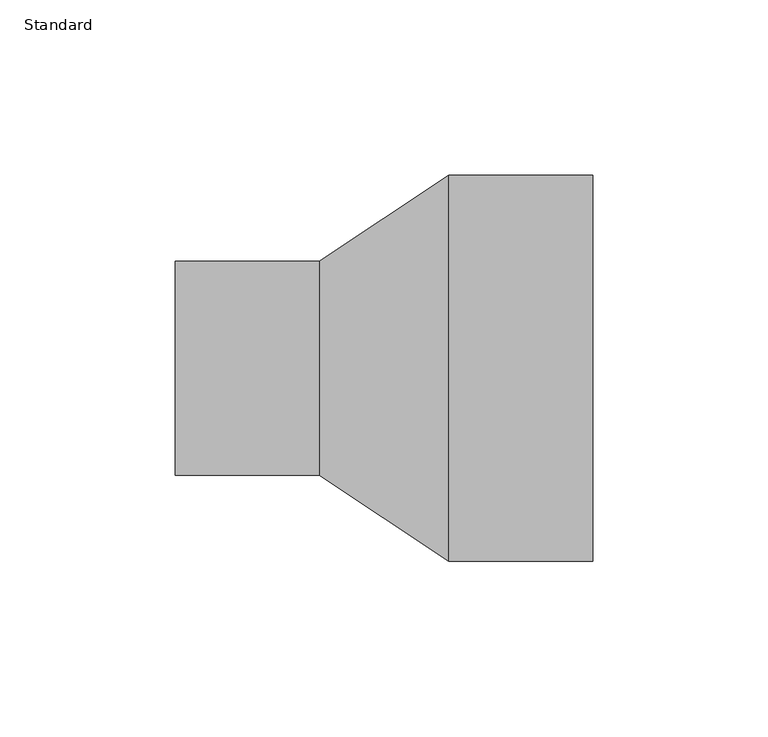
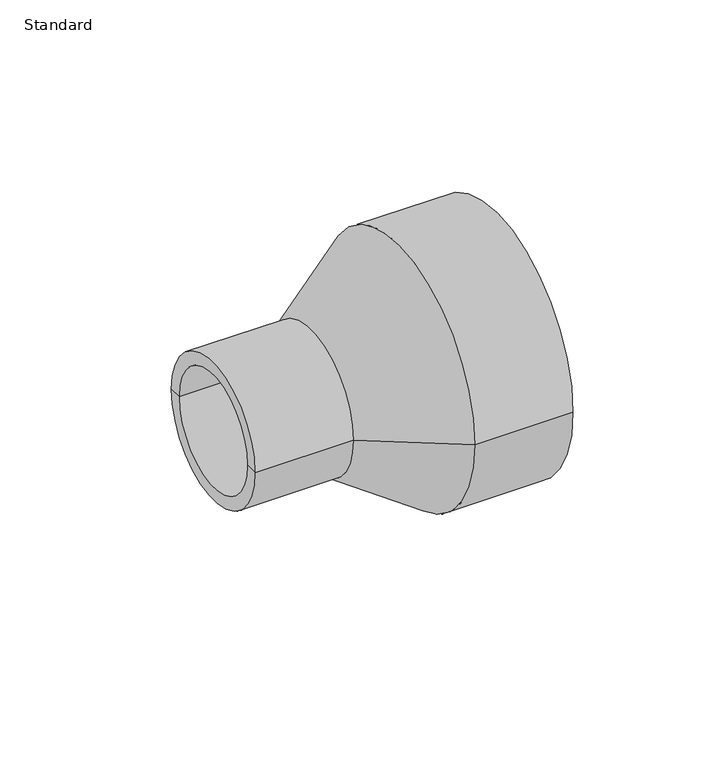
"""IFC4 building model written with IfcOpenShell, lengths in millimetres: pipe fitting geometry, Durapipe_PipeFitting_PVC_Reducers : Standard."""

from ifc_helpers import new_model, si_unit, frame, origin, place, context, project, spatial, polyline, circle_curve, source, transform, mapped, element, save
from ifc_brep_helpers import plane_surface, cylinder_surface, revolved_surface, advanced_brep


def standard_8775f316(model_context):
    return source(origin(), model_context, "Body", "AdvancedBrep", [
        advanced_brep(
        [(-59.5, -30.5, 0.0), (-59.5, 30.5, 0.0), (-18.5, 30.5, 0.0), (-18.5, -30.5, 0.0), (-59.5, -25.0, 0.0), (-59.5, 25.0, 0.0), (59.5, -55.0, 0.0), (59.5, 55.0, 0.0), (59.5, 45.0, 0.0), (59.5, -45.0, 0.0), (18.5, -55.0, 0.0), (18.5, 55.0, 0.0), (-18.5, -25.0, 0.0), (-18.5, 25.0, 0.0), (-18.5, 0.0, 0.0), (18.5, -45.0, 0.0), (18.5, 45.0, 0.0), (18.5, 0.0, 0.0)],
        [
            (0, 1, circle_curve(frame((-59.5, 0.0, 0.0), z_axis=(1.0, 0.0, 0.0), x_axis=(0.0, 1.0, 0.0)), 30.5)),
            (1, 2),
            (2, 3, circle_curve(frame((-18.5, 0.0, 0.0), z_axis=(-1.0, 0.0, 0.0), x_axis=(0.0, 1.0, 0.0)), 30.5)),
            (3, 0),
            (1, 0, circle_curve(frame((-59.5, 0.0, 0.0), z_axis=(1.0, 0.0, 0.0), x_axis=(0.0, 1.0, 0.0)), 30.5)),
            (3, 2, circle_curve(frame((-18.5, 0.0, 0.0), z_axis=(-1.0, 0.0, 0.0), x_axis=(0.0, 1.0, 0.0)), 30.5)),
            (4, 5, circle_curve(frame((-59.5, 0.0, 0.0), z_axis=(1.0, 0.0, 0.0), x_axis=(0.0, 1.0, 0.0)), 25.0)),
            (5, 1),
            (0, 4),
            (5, 4, circle_curve(frame((-59.5, 0.0, 0.0), z_axis=(1.0, 0.0, 0.0), x_axis=(0.0, 1.0, 0.0)), 25.0)),
            (6, 7, circle_curve(frame((59.5, 0.0, 0.0), z_axis=(1.0, 0.0, 0.0), x_axis=(0.0, 1.0, 0.0)), 55.0)),
            (7, 8),
            (8, 9, circle_curve(frame((59.5, 0.0, 0.0), z_axis=(-1.0, 0.0, 0.0), x_axis=(0.0, 1.0, 0.0)), 45.0)),
            (9, 6),
            (7, 6, circle_curve(frame((59.5, 0.0, 0.0), z_axis=(1.0, 0.0, 0.0), x_axis=(0.0, 1.0, 0.0)), 55.0)),
            (9, 8, circle_curve(frame((59.5, 0.0, 0.0), z_axis=(-1.0, 0.0, 0.0), x_axis=(0.0, 1.0, 0.0)), 45.0)),
            (10, 11, circle_curve(frame((18.5, 0.0, 0.0), z_axis=(1.0, 0.0, 0.0), x_axis=(0.0, 1.0, 0.0)), 55.0)),
            (11, 7),
            (6, 10),
            (11, 10, circle_curve(frame((18.5, 0.0, 0.0), z_axis=(1.0, 0.0, 0.0), x_axis=(0.0, 1.0, 0.0)), 55.0)),
            (2, 11),
            (10, 3),
            (12, 13, circle_curve(frame((-18.5, 0.0, 0.0), z_axis=(1.0, 0.0, 0.0), x_axis=(0.0, 1.0, 0.0)), 25.0)),
            (13, 5),
            (4, 12),
            (13, 12, circle_curve(frame((-18.5, 0.0, 0.0), z_axis=(1.0, 0.0, 0.0), x_axis=(0.0, 1.0, 0.0)), 25.0)),
            (14, 13),
            (12, 14),
            (15, 16, circle_curve(frame((18.5, 0.0, 0.0), z_axis=(1.0, 0.0, 0.0), x_axis=(0.0, 1.0, 0.0)), 45.0)),
            (16, 17),
            (17, 15),
            (16, 15, circle_curve(frame((18.5, 0.0, 0.0), z_axis=(1.0, 0.0, 0.0), x_axis=(0.0, 1.0, 0.0)), 45.0)),
            (8, 16),
            (15, 9),
        ],
        [
            cylinder_surface(frame((-59.5, 0.0, 0.0), z_axis=(-1.0, 0.0, 0.0), x_axis=(0.0, 1.0, 0.0)), 30.5),
            plane_surface(frame((-59.5, 0.0, 0.0), z_axis=(-1.0, 0.0, 0.0), x_axis=(0.0, 1.0, 0.0))),
            plane_surface(frame((59.5, 0.0, 0.0), z_axis=(1.0, 0.0, 0.0), x_axis=(0.0, 1.0, 0.0))),
            cylinder_surface(frame((-59.5, 0.0, 0.0), z_axis=(-1.0, 0.0, 0.0), x_axis=(0.0, 1.0, 0.0)), 55.0),
            revolved_surface(polyline([(18.5, 55.0, 0.0), (-18.5, 30.5, 0.0)]), (-59.5, 0.0, 0.0), (-1.0, 0.0, 0.0)),
            revolved_surface(polyline([(-59.5, 25.0, 0.0), (-18.5, 25.0, 0.0)]), (-59.5, 0.0, 0.0), (-1.0, 0.0, 0.0)),
            plane_surface(frame((-18.5, 0.0, 0.0), z_axis=(-1.0, 0.0, 0.0), x_axis=(0.0, 1.0, 0.0))),
            plane_surface(frame((18.5, 0.0, 0.0), z_axis=(1.0, 0.0, 0.0), x_axis=(0.0, 1.0, 0.0))),
            revolved_surface(polyline([(18.5, 45.0, 0.0), (59.5, 45.0, 0.0)]), (-59.5, 0.0, 0.0), (-1.0, 0.0, 0.0)),
        ],
        [
            (0, [[1, 2, 3, 4]]),
            (0, [[5, -4, 6, -2]]),
            (1, [[7, 8, -1, 9]]),
            (1, [[10, -9, -5, -8]]),
            (2, [[11, 12, 13, 14]]),
            (2, [[15, -14, 16, -12]]),
            (3, [[17, 18, -11, 19]]),
            (3, [[20, -19, -15, -18]]),
            (4, [[-3, 21, -17, 22]]),
            (4, [[-6, -22, -20, -21]]),
            (5, [[23, 24, -7, 25]]),
            (5, [[26, -25, -10, -24]]),
            (6, [[27, -23, 28]]),
            (6, [[-28, -26, -27]]),
            (7, [[29, 30, 31]]),
            (7, [[32, -31, -30]]),
            (8, [[-13, 33, -29, 34]]),
            (8, [[-16, -34, -32, -33]]),
        ],
    ),
    ])


if __name__ == "__main__":
    model = new_model("IFC4")
    model_context = context("Model", 3, world=origin())
    ifc_project = project(units=[si_unit("LENGTHUNIT", "METRE", prefix="MILLI")], contexts=[model_context])
    site = spatial("IfcSite", under=ifc_project)
    building = spatial("IfcBuilding", under=site)
    placement = place(None, origin())
    standard_shape = standard_8775f316(model_context)
    element("IfcPipeFitting", 1, ObjectType="Durapipe_PipeFitting_PVC_Reducers : Standard", at=placement, inside=building, context=model_context, shape_type="MappedRepresentation", body=[
        mapped(standard_shape, transform((0.0, 0.0, 0.0), x_axis=(1.0, 0.0, 0.0), y_axis=(0.0, 1.0, 0.0), z_axis=(0.0, 0.0, 1.0))),
    ])
    save(model, "model.ifc")
